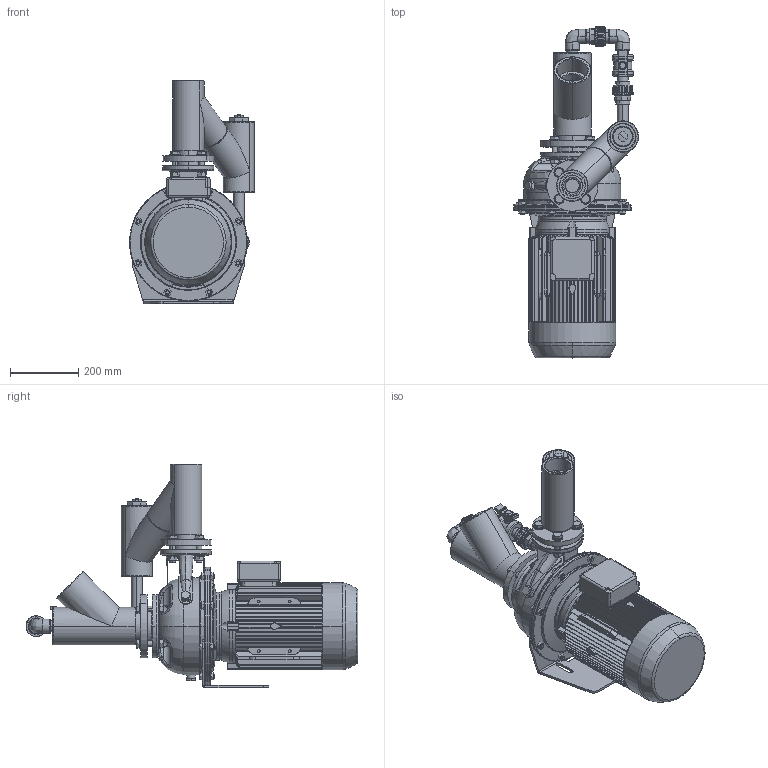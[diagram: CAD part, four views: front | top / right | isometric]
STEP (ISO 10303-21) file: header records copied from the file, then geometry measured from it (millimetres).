
FILE_DESCRIPTION (( 'STEP AP203' ), '1' );
FILE_NAME ('Lowara SHE 40-250 z.a.z handbed. by-pass.STEP', '2011-04-06T14:45:47', ( '' ), ( '' ), 'SwSTEP 2.0', 'SolidWorks 2010', '' );
FILE_SCHEMA (( 'CONFIG_CONTROL_DESIGN' ));
Products named in the file (1): Lowara SHE 40-250 z.a.z handbed. by-pass
Bounding box: 366.4 x 973.18 x 654.48 mm (x, y, z)
Volume: 33443045.1 mm3; surface area: 2953635 mm2
Topology: 63 solids, 65 shells, 2856 faces, 7221 edges, 4508 vertices
Faces by surface type: plane 1085, cylinder 895, cone 486, bspline 366, torus 24
Entity records: 115179 total; most frequent: CARTESIAN_POINT 49880, ORIENTED_EDGE 14248, DIRECTION 12975, EDGE_CURVE 7124, AXIS2_PLACEMENT_3D 5152, VERTEX_POINT 4508, EDGE_LOOP 3132, ADVANCED_FACE 2856
